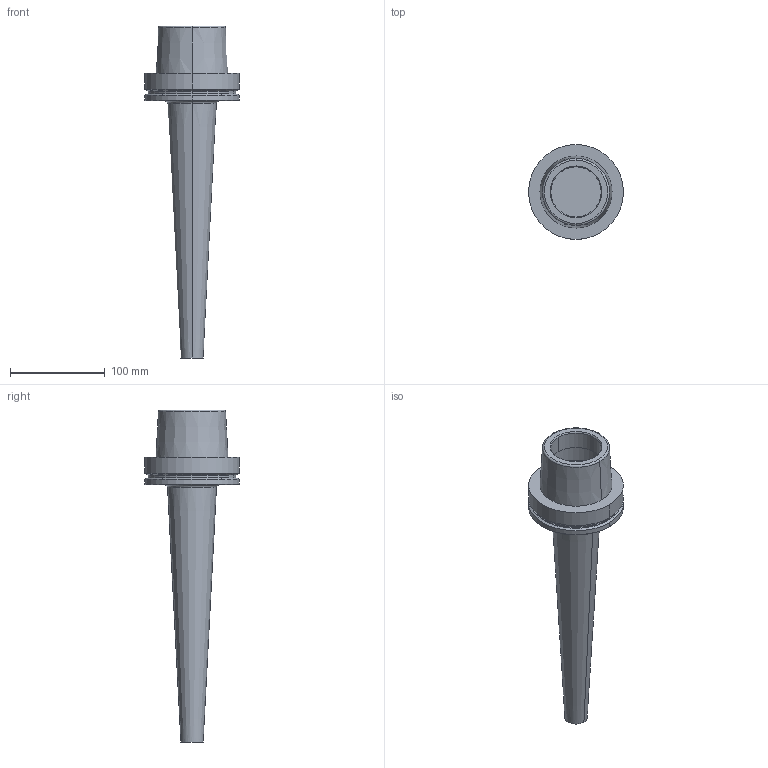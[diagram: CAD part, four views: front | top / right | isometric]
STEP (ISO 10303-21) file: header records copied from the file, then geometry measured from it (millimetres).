
FILE_DESCRIPTION(('no description'),'unknown implementation level');
FILE_NAME('solidxPsMFgcOjRWBOR8aWt0czNgho8M_1.STP',' ',('CIMSOURCE GmbH'),('CADClick - KiM GmbH - www.kimweb.de'),'unknown preprocess','ACIS','unknown authorization');
FILE_SCHEMA(('automotive_design'));
Length unit declared in the file: millimetre
Products named in the file (1): NOCUT
Bounding box: 100 x 100 x 350 mm (x, y, z)
Volume: 586157.9 mm3; surface area: 80111.6 mm2
Topology: 1 solids, 1 shells, 59 faces, 118 edges, 65 vertices
Faces by surface type: cone 22, cylinder 20, torus 10, plane 7
Entity records: 2923 total; most frequent: DIRECTION 316, CARTESIAN_POINT 244, STYLED_ITEM 241, PRESENTATION_STYLE_ASSIGNMENT 241, COLOUR_RGB 241, ORIENTED_EDGE 232, AXIS2_PLACEMENT_3D 137, EDGE_CURVE 116
